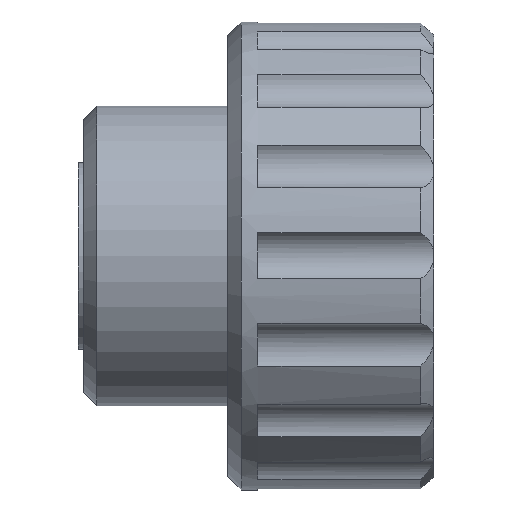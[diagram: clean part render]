
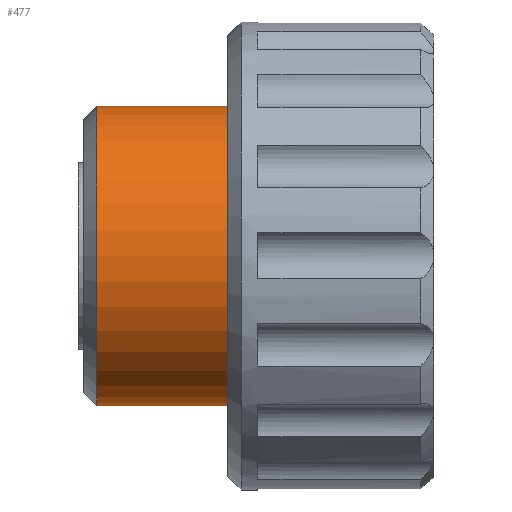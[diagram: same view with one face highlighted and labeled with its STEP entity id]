
A CAD part, top view. The second image highlights one B-rep face of the part: STEP entity #477.
In plain terms, the highlighted cylindrical face has radius 8 mm (diameter 16 mm), a partial arc.
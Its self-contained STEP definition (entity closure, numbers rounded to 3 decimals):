
#41 = EDGE_CURVE ( 'NONE', #981, #1885, #593, .T. ) ;
#294 = DIRECTION ( 'NONE',  ( 0., -1., 0. ) ) ;
#381 = CIRCLE ( 'NONE', #2604, 8. ) ;
#409 = CARTESIAN_POINT ( 'NONE',  ( 14.5, -8., 0. ) ) ;
#464 = LINE ( 'NONE', #922, #1458 ) ;
#477 = ADVANCED_FACE ( 'CYL_1', ( #1801 ), #2436, .T. ) ;
#539 = DIRECTION ( 'NONE',  ( 0., -1., 0. ) ) ;
#564 = CARTESIAN_POINT ( 'NONE',  ( 11.071, -8., 0. ) ) ;
#593 = CIRCLE ( 'NONE', #679, 8. ) ;
#619 = DIRECTION ( 'NONE',  ( -1., 0., 0. ) ) ;
#668 = EDGE_LOOP ( 'NONE', ( #1264, #1019, #1082, #703 ) ) ;
#679 = AXIS2_PLACEMENT_3D ( 'NONE', #978, #747, #539 ) ;
#703 = ORIENTED_EDGE ( 'NONE', *, *, #765, .F. ) ;
#747 = DIRECTION ( 'NONE',  ( -1., 0., 0. ) ) ;
#765 = EDGE_CURVE ( 'NONE', #981, #2576, #1083, .T. ) ;
#854 = EDGE_CURVE ( 'NONE', #1885, #1156, #464, .T. ) ;
#893 = DIRECTION ( 'NONE',  ( -1., 0., 0. ) ) ;
#922 = CARTESIAN_POINT ( 'NONE',  ( 14.5, 8., 0. ) ) ;
#978 = CARTESIAN_POINT ( 'NONE',  ( 11.071, 0., 0. ) ) ;
#981 = VERTEX_POINT ( 'NONE', #564 ) ;
#1019 = ORIENTED_EDGE ( 'NONE', *, *, #854, .T. ) ;
#1026 = CARTESIAN_POINT ( 'NONE',  ( 11.071, 8., 0. ) ) ;
#1062 = DIRECTION ( 'NONE',  ( 0., -1., 0. ) ) ;
#1082 = ORIENTED_EDGE ( 'NONE', *, *, #2616, .F. ) ;
#1083 = LINE ( 'NONE', #409, #2013 ) ;
#1116 = CARTESIAN_POINT ( 'NONE',  ( 1., 0., 0. ) ) ;
#1156 = VERTEX_POINT ( 'NONE', #2824 ) ;
#1264 = ORIENTED_EDGE ( 'NONE', *, *, #41, .T. ) ;
#1275 = DIRECTION ( 'NONE',  ( -1., 0., 0. ) ) ;
#1458 = VECTOR ( 'NONE', #893, 1000. ) ;
#1589 = CARTESIAN_POINT ( 'NONE',  ( 14.5, 0., 0. ) ) ;
#1647 = AXIS2_PLACEMENT_3D ( 'NONE', #1589, #2461, #294 ) ;
#1801 = FACE_OUTER_BOUND ( 'NONE', #668, .T. ) ;
#1885 = VERTEX_POINT ( 'NONE', #1026 ) ;
#2013 = VECTOR ( 'NONE', #1275, 1000. ) ;
#2436 = CYLINDRICAL_SURFACE ( 'NONE', #1647, 8. ) ;
#2461 = DIRECTION ( 'NONE',  ( -1., 0., 0. ) ) ;
#2576 = VERTEX_POINT ( 'NONE', #2579 ) ;
#2579 = CARTESIAN_POINT ( 'NONE',  ( 1., -8., 0. ) ) ;
#2604 = AXIS2_PLACEMENT_3D ( 'NONE', #1116, #619, #1062 ) ;
#2616 = EDGE_CURVE ( 'NONE', #2576, #1156, #381, .T. ) ;
#2824 = CARTESIAN_POINT ( 'NONE',  ( 1., 8., 0. ) ) ;
